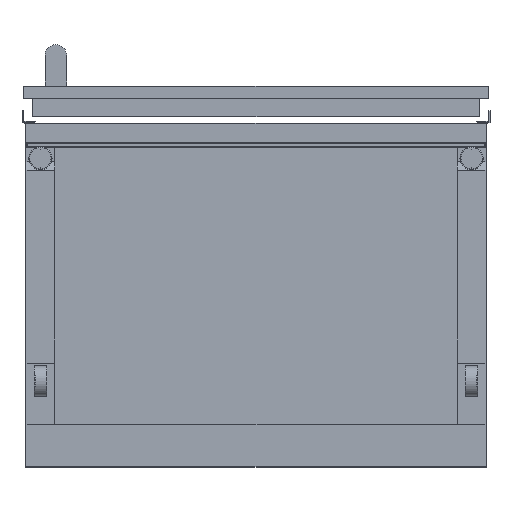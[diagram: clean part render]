
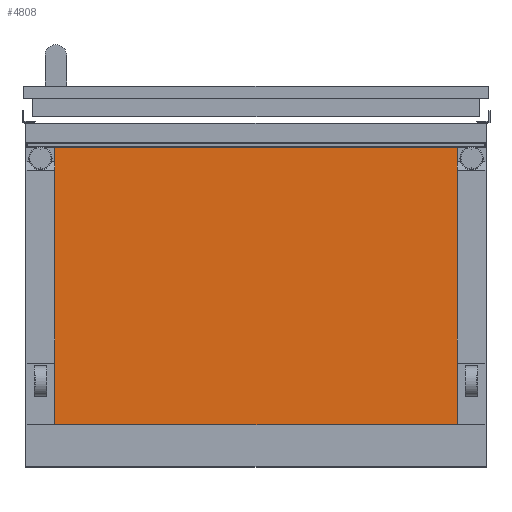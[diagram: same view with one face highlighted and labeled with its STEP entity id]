
A CAD part, front view. The second image highlights one B-rep face of the part: STEP entity #4808.
In plain terms, the highlighted planar face has unit normal (0, -1, 0).
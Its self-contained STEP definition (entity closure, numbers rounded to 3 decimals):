
#64 = VERTEX_POINT ( 'NONE', #739 ) ;
#178 = FACE_OUTER_BOUND ( 'NONE', #13966, .T. ) ;
#563 = VERTEX_POINT ( 'NONE', #1189 ) ;
#739 = CARTESIAN_POINT ( 'NONE',  ( -327., -1025.85, 240. ) ) ;
#1189 = CARTESIAN_POINT ( 'NONE',  ( 327., -1025.85, -210.4 ) ) ;
#1716 = LINE ( 'NONE', #6041, #3820 ) ;
#1913 = PLANE ( 'NONE',  #10932 ) ;
#2661 = EDGE_CURVE ( 'NONE', #563, #12710, #10532, .T. ) ;
#3037 = DIRECTION ( 'NONE',  ( 0., 0., 1. ) ) ;
#3733 = CARTESIAN_POINT ( 'NONE',  ( 327., -1025.85, 240. ) ) ;
#3820 = VECTOR ( 'NONE', #13873, 1000. ) ;
#4541 = DIRECTION ( 'NONE',  ( 0., 0., 1. ) ) ;
#4612 = ORIENTED_EDGE ( 'NONE', *, *, #2661, .T. ) ;
#4808 = ADVANCED_FACE ( 'NONE', ( #178 ), #1913, .F. ) ;
#4865 = ORIENTED_EDGE ( 'NONE', *, *, #7050, .T. ) ;
#6041 = CARTESIAN_POINT ( 'NONE',  ( -374., -1025.85, -210.4 ) ) ;
#6218 = DIRECTION ( 'NONE',  ( -1., 0., 0. ) ) ;
#7040 = VECTOR ( 'NONE', #4541, 1000. ) ;
#7050 = EDGE_CURVE ( 'NONE', #12710, #64, #12448, .T. ) ;
#7598 = ORIENTED_EDGE ( 'NONE', *, *, #12732, .F. ) ;
#7694 = CARTESIAN_POINT ( 'NONE',  ( -327., -1025.85, -210.4 ) ) ;
#8495 = VECTOR ( 'NONE', #12649, 1000. ) ;
#9308 = VECTOR ( 'NONE', #6218, 1000. ) ;
#9696 = DIRECTION ( 'NONE',  ( 0., 1., 0. ) ) ;
#9882 = LINE ( 'NONE', #11653, #8495 ) ;
#10468 = EDGE_CURVE ( 'NONE', #563, #12494, #1716, .T. ) ;
#10469 = ORIENTED_EDGE ( 'NONE', *, *, #10468, .F. ) ;
#10532 = LINE ( 'NONE', #11218, #7040 ) ;
#10932 = AXIS2_PLACEMENT_3D ( 'NONE', #14120, #9696, #3037 ) ;
#11218 = CARTESIAN_POINT ( 'NONE',  ( 327., -1025.85, -280. ) ) ;
#11653 = CARTESIAN_POINT ( 'NONE',  ( -327., -1025.85, -280. ) ) ;
#11795 = CARTESIAN_POINT ( 'NONE',  ( -327., -1025.85, 240. ) ) ;
#12448 = LINE ( 'NONE', #11795, #9308 ) ;
#12494 = VERTEX_POINT ( 'NONE', #7694 ) ;
#12649 = DIRECTION ( 'NONE',  ( 0., 0., 1. ) ) ;
#12710 = VERTEX_POINT ( 'NONE', #3733 ) ;
#12732 = EDGE_CURVE ( 'NONE', #12494, #64, #9882, .T. ) ;
#13873 = DIRECTION ( 'NONE',  ( -1., 0., 0. ) ) ;
#13966 = EDGE_LOOP ( 'NONE', ( #4612, #4865, #7598, #10469 ) ) ;
#14120 = CARTESIAN_POINT ( 'NONE',  ( -327., -1025.85, -280. ) ) ;
